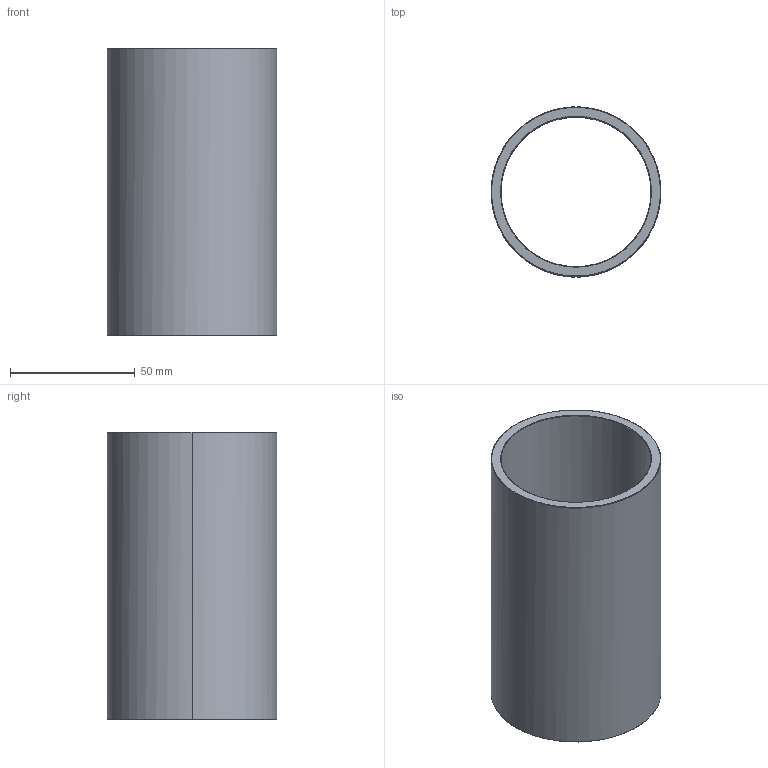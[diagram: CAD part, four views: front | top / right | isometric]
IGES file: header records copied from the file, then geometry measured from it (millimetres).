
Start section: Write IGES format                                    datakit 2008 (c)
Global section: file name: Unknown; native system: DATAKIT Converter; preprocessor: Unknown; author: Unknown; organization: Unknown; date: 950613.180003; units: millimetre
Bounding box: 68 x 67.9 x 115 mm (x, y, z)
Surface area: 47758.5 mm2 (no closed solid volume)
Topology: 0 solids, 0 shells, 14 faces, 56 edges, 56 vertices
Faces by surface type: revolution 12, bspline 2
